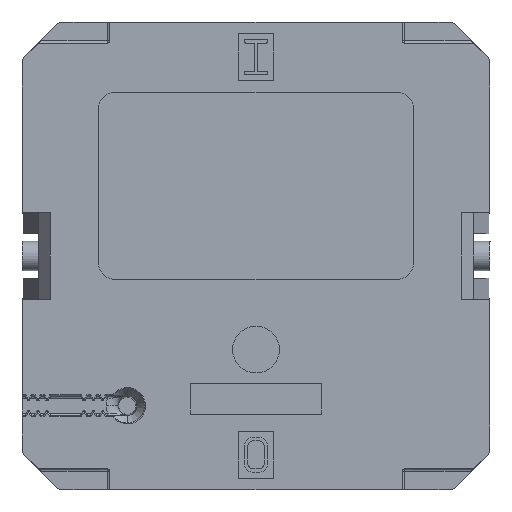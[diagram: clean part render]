
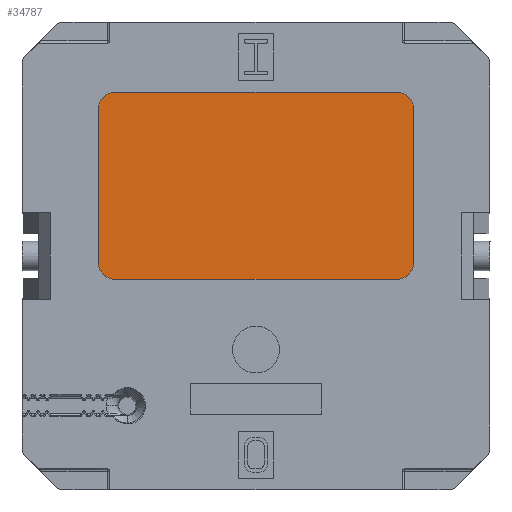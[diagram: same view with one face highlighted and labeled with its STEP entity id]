
A CAD part, front view. The second image highlights one B-rep face of the part: STEP entity #34787.
In plain terms, the highlighted planar face has unit normal (0, -1, 0).
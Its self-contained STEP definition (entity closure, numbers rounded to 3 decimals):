
#153 = VERTEX_POINT ( 'NONE', #1038 ) ;
#1038 = CARTESIAN_POINT ( 'NONE',  ( -26.718, 5.292, 14.1 ) ) ;
#1922 = VERTEX_POINT ( 'NONE', #33976 ) ;
#2098 = DIRECTION ( 'NONE',  ( 0., 0., -1. ) ) ;
#2493 = DIRECTION ( 'NONE',  ( 0., 0., -1. ) ) ;
#3178 = VECTOR ( 'NONE', #22079, 1000. ) ;
#3244 = CARTESIAN_POINT ( 'NONE',  ( -26.718, 5.292, 1.1 ) ) ;
#3281 = VECTOR ( 'NONE', #29152, 1000. ) ;
#4983 = ORIENTED_EDGE ( 'NONE', *, *, #23784, .F. ) ;
#5540 = CARTESIAN_POINT ( 'NONE',  ( -53.718, 5.292, 7.6 ) ) ;
#8831 = VERTEX_POINT ( 'NONE', #16186 ) ;
#10369 = ORIENTED_EDGE ( 'NONE', *, *, #19208, .F. ) ;
#10753 = DIRECTION ( 'NONE',  ( 0., 0., -1. ) ) ;
#11020 = ORIENTED_EDGE ( 'NONE', *, *, #30785, .F. ) ;
#11158 = CIRCLE ( 'NONE', #33611, 1.5 ) ;
#11361 = AXIS2_PLACEMENT_3D ( 'NONE', #20117, #28295, #33824 ) ;
#11369 = FACE_OUTER_BOUND ( 'NONE', #19328, .T. ) ;
#11478 = VERTEX_POINT ( 'NONE', #32052 ) ;
#12206 = EDGE_CURVE ( 'NONE', #15765, #22720, #11158, .T. ) ;
#12791 = VERTEX_POINT ( 'NONE', #3244 ) ;
#13195 = ORIENTED_EDGE ( 'NONE', *, *, #12206, .F. ) ;
#13945 = ORIENTED_EDGE ( 'NONE', *, *, #19592, .F. ) ;
#14623 = ORIENTED_EDGE ( 'NONE', *, *, #20674, .F. ) ;
#15083 = EDGE_CURVE ( 'NONE', #11478, #22626, #21426, .T. ) ;
#15259 = VECTOR ( 'NONE', #2098, 1000. ) ;
#15765 = VERTEX_POINT ( 'NONE', #22743 ) ;
#16186 = CARTESIAN_POINT ( 'NONE',  ( -28.218, 5.292, -0.4 ) ) ;
#16481 = DIRECTION ( 'NONE',  ( 1., 0., 0. ) ) ;
#17133 = CARTESIAN_POINT ( 'NONE',  ( -55.068, 5.292, -1.2 ) ) ;
#17140 = AXIS2_PLACEMENT_3D ( 'NONE', #21933, #24783, #2493 ) ;
#17141 = LINE ( 'NONE', #5540, #3178 ) ;
#18094 = CIRCLE ( 'NONE', #11361, 1.5 ) ;
#18131 = VECTOR ( 'NONE', #16481, 1000. ) ;
#18305 = CARTESIAN_POINT ( 'NONE',  ( -52.218, 5.292, 14.1 ) ) ;
#18935 = CARTESIAN_POINT ( 'NONE',  ( -53.718, 5.292, 1.1 ) ) ;
#19208 = EDGE_CURVE ( 'NONE', #22720, #1922, #33124, .T. ) ;
#19328 = EDGE_LOOP ( 'NONE', ( #11020, #4983, #32915, #10369, #13195, #14623, #35928, #13945 ) ) ;
#19592 = EDGE_CURVE ( 'NONE', #8831, #11478, #26061, .T. ) ;
#19954 = DIRECTION ( 'NONE',  ( 1., 0., 0. ) ) ;
#20117 = CARTESIAN_POINT ( 'NONE',  ( -28.218, 5.292, 1.1 ) ) ;
#20638 = CARTESIAN_POINT ( 'NONE',  ( -40.218, 5.292, -0.4 ) ) ;
#20674 = EDGE_CURVE ( 'NONE', #22626, #15765, #17141, .T. ) ;
#20962 = LINE ( 'NONE', #29787, #15259 ) ;
#21426 = CIRCLE ( 'NONE', #17140, 1.5 ) ;
#21933 = CARTESIAN_POINT ( 'NONE',  ( -52.218, 5.292, 1.1 ) ) ;
#22079 = DIRECTION ( 'NONE',  ( 0., 0., 1. ) ) ;
#22626 = VERTEX_POINT ( 'NONE', #18935 ) ;
#22673 = DIRECTION ( 'NONE',  ( 0., -1., 0. ) ) ;
#22720 = VERTEX_POINT ( 'NONE', #35957 ) ;
#22743 = CARTESIAN_POINT ( 'NONE',  ( -53.718, 5.292, 14.1 ) ) ;
#23784 = EDGE_CURVE ( 'NONE', #153, #12791, #20962, .T. ) ;
#24139 = CARTESIAN_POINT ( 'NONE',  ( -28.218, 5.292, 14.1 ) ) ;
#24783 = DIRECTION ( 'NONE',  ( 0., 1., 0. ) ) ;
#25293 = AXIS2_PLACEMENT_3D ( 'NONE', #24139, #26735, #35334 ) ;
#26003 = AXIS2_PLACEMENT_3D ( 'NONE', #17133, #22673, #19954 ) ;
#26061 = LINE ( 'NONE', #20638, #3281 ) ;
#26124 = CIRCLE ( 'NONE', #25293, 1.5 ) ;
#26735 = DIRECTION ( 'NONE',  ( 0., 1., 0. ) ) ;
#28295 = DIRECTION ( 'NONE',  ( 0., 1., 0. ) ) ;
#29152 = DIRECTION ( 'NONE',  ( -1., 0., 0. ) ) ;
#29604 = EDGE_CURVE ( 'NONE', #1922, #153, #26124, .T. ) ;
#29787 = CARTESIAN_POINT ( 'NONE',  ( -26.718, 5.292, 7.6 ) ) ;
#30785 = EDGE_CURVE ( 'NONE', #12791, #8831, #18094, .T. ) ;
#32052 = CARTESIAN_POINT ( 'NONE',  ( -52.218, 5.292, -0.4 ) ) ;
#32915 = ORIENTED_EDGE ( 'NONE', *, *, #29604, .F. ) ;
#33124 = LINE ( 'NONE', #33489, #18131 ) ;
#33489 = CARTESIAN_POINT ( 'NONE',  ( -40.218, 5.292, 15.6 ) ) ;
#33611 = AXIS2_PLACEMENT_3D ( 'NONE', #18305, #35078, #10753 ) ;
#33778 = PLANE ( 'NONE',  #26003 ) ;
#33824 = DIRECTION ( 'NONE',  ( 0., 0., -1. ) ) ;
#33976 = CARTESIAN_POINT ( 'NONE',  ( -28.218, 5.292, 15.6 ) ) ;
#34787 = ADVANCED_FACE ( 'NONE', ( #11369 ), #33778, .T. ) ;
#35078 = DIRECTION ( 'NONE',  ( 0., 1., 0. ) ) ;
#35334 = DIRECTION ( 'NONE',  ( 0., 0., -1. ) ) ;
#35928 = ORIENTED_EDGE ( 'NONE', *, *, #15083, .F. ) ;
#35957 = CARTESIAN_POINT ( 'NONE',  ( -52.218, 5.292, 15.6 ) ) ;
